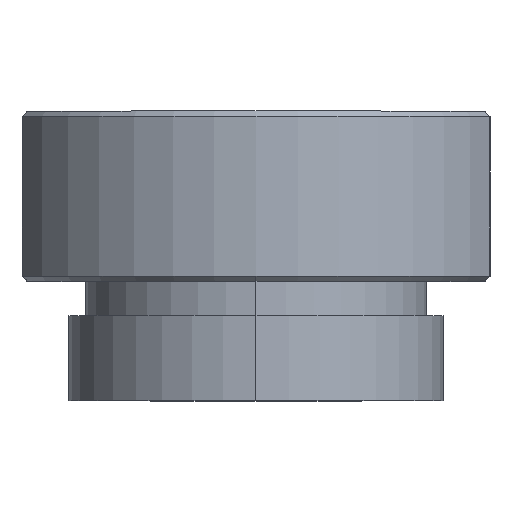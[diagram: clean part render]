
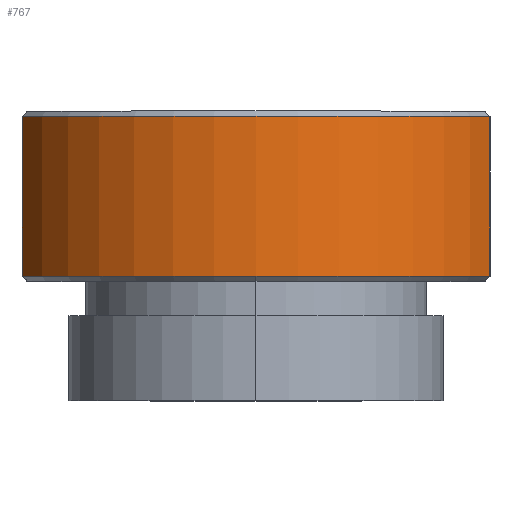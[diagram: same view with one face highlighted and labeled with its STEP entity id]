
A CAD part, top view. The second image highlights one B-rep face of the part: STEP entity #767.
In plain terms, the highlighted cylindrical face has radius 15 mm (diameter 30 mm), a partial arc.
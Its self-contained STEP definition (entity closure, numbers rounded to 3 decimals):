
#6 = LINE ( 'NONE', #452, #1043 ) ;
#8 = AXIS2_PLACEMENT_3D ( 'NONE', #436, #23, #94 ) ;
#23 = DIRECTION ( 'NONE',  ( 0., -1., 0. ) ) ;
#90 = EDGE_CURVE ( 'NONE', #758, #124, #320, .T. ) ;
#94 = DIRECTION ( 'NONE',  ( 0., 0., -1. ) ) ;
#121 = AXIS2_PLACEMENT_3D ( 'NONE', #613, #277, #202 ) ;
#124 = VERTEX_POINT ( 'NONE', #904 ) ;
#178 = VERTEX_POINT ( 'NONE', #732 ) ;
#202 = DIRECTION ( 'NONE',  ( 0., 0., 1. ) ) ;
#277 = DIRECTION ( 'NONE',  ( 0., 1., 0. ) ) ;
#289 = ORIENTED_EDGE ( 'NONE', *, *, #953, .T. ) ;
#295 = CARTESIAN_POINT ( 'NONE',  ( 0., 9.7, 0. ) ) ;
#320 = CIRCLE ( 'NONE', #473, 15. ) ;
#363 = CARTESIAN_POINT ( 'NONE',  ( 0., 0.3, 15. ) ) ;
#383 = DIRECTION ( 'NONE',  ( 0., -1., 0. ) ) ;
#436 = CARTESIAN_POINT ( 'NONE',  ( 0., 10., 0. ) ) ;
#452 = CARTESIAN_POINT ( 'NONE',  ( -13.748, 10., 6. ) ) ;
#473 = AXIS2_PLACEMENT_3D ( 'NONE', #295, #383, #546 ) ;
#485 = ORIENTED_EDGE ( 'NONE', *, *, #90, .T. ) ;
#515 = CARTESIAN_POINT ( 'NONE',  ( 13.748, 9.7, 6. ) ) ;
#533 = AXIS2_PLACEMENT_3D ( 'NONE', #863, #785, #958 ) ;
#537 = DIRECTION ( 'NONE',  ( 0., 1., 0. ) ) ;
#546 = DIRECTION ( 'NONE',  ( 0., 0., 1. ) ) ;
#562 = EDGE_LOOP ( 'NONE', ( #774, #838, #1072, #289, #485 ) ) ;
#569 = FACE_OUTER_BOUND ( 'NONE', #562, .T. ) ;
#606 = VECTOR ( 'NONE', #711, 1000. ) ;
#613 = CARTESIAN_POINT ( 'NONE',  ( 0., 0.3, 0. ) ) ;
#617 = CIRCLE ( 'NONE', #121, 15. ) ;
#689 = VERTEX_POINT ( 'NONE', #745 ) ;
#711 = DIRECTION ( 'NONE',  ( 0., 1., 0. ) ) ;
#732 = CARTESIAN_POINT ( 'NONE',  ( 13.748, 0.3, 6. ) ) ;
#745 = CARTESIAN_POINT ( 'NONE',  ( -13.748, 0.3, 6. ) ) ;
#758 = VERTEX_POINT ( 'NONE', #515 ) ;
#767 = ADVANCED_FACE ( 'NONE', ( #569 ), #850, .T. ) ;
#774 = ORIENTED_EDGE ( 'NONE', *, *, #1032, .F. ) ;
#785 = DIRECTION ( 'NONE',  ( 0., 1., 0. ) ) ;
#821 = VERTEX_POINT ( 'NONE', #363 ) ;
#838 = ORIENTED_EDGE ( 'NONE', *, *, #954, .T. ) ;
#850 = CYLINDRICAL_SURFACE ( 'NONE', #8, 15. ) ;
#856 = LINE ( 'NONE', #881, #606 ) ;
#863 = CARTESIAN_POINT ( 'NONE',  ( 0., 0.3, 0. ) ) ;
#881 = CARTESIAN_POINT ( 'NONE',  ( 13.748, 10., 6. ) ) ;
#904 = CARTESIAN_POINT ( 'NONE',  ( -13.748, 9.7, 6. ) ) ;
#919 = CIRCLE ( 'NONE', #533, 15. ) ;
#953 = EDGE_CURVE ( 'NONE', #178, #758, #856, .T. ) ;
#954 = EDGE_CURVE ( 'NONE', #689, #821, #919, .T. ) ;
#958 = DIRECTION ( 'NONE',  ( 0., 0., 1. ) ) ;
#1006 = EDGE_CURVE ( 'NONE', #821, #178, #617, .T. ) ;
#1032 = EDGE_CURVE ( 'NONE', #689, #124, #6, .T. ) ;
#1043 = VECTOR ( 'NONE', #537, 1000. ) ;
#1072 = ORIENTED_EDGE ( 'NONE', *, *, #1006, .T. ) ;
